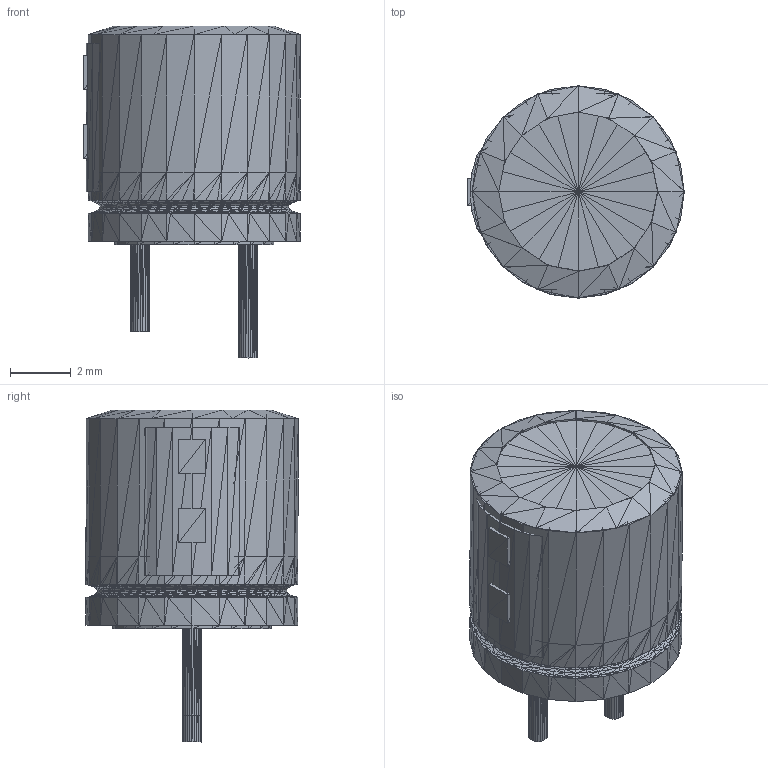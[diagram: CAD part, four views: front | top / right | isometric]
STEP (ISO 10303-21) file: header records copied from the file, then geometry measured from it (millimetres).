
FILE_DESCRIPTION(('HOOPS Exchange Step'),'2;1');
FILE_NAME('***.stp');
FILE_SCHEMA( ('AP242_MANAGED_MODEL_BASED_3D_ENGINEERING_MIM_LF {1 0 10303 442 1 1 4 }') );
Length unit declared in the file: inch
Products named in the file (11): CAPOLV275MIL_2; CAPOLV275MIL_3; CAPOLV275MIL_4; CAPOLV275MIL_5; CAPOLV275MIL_6; CAPOLV275MIL_7; CAPOLV275MIL_8; CAPOLV275MIL_9; CAPOLV275MIL_10; CAPOLV275MIL_11; CAPOLV275MIL
Assembly tree (10 placements, depth 2):
  CAPOLV275MIL
    CAPOLV275MIL_2
    CAPOLV275MIL_3
    CAPOLV275MIL_4
    CAPOLV275MIL_5
    CAPOLV275MIL_6
    CAPOLV275MIL_7
    CAPOLV275MIL_8
    CAPOLV275MIL_9
    CAPOLV275MIL_10
    CAPOLV275MIL_11
Bounding box: 7.13 x 6.99 x 10.94 mm (x, y, z)
Volume: 294 mm3; surface area: 519.6 mm2
Topology: 10 solids, 10 shells, 2004 faces, 3006 edges, 1020 vertices
Faces by surface type: plane 2004
Entity records: 39590 total; most frequent: DIRECTION 7058, CARTESIAN_POINT 6052, ORIENTED_EDGE 6012, VECTOR 3006, LINE 3006, EDGE_CURVE 3006, AXIS2_PLACEMENT_3D 2026, PLANE 2004
